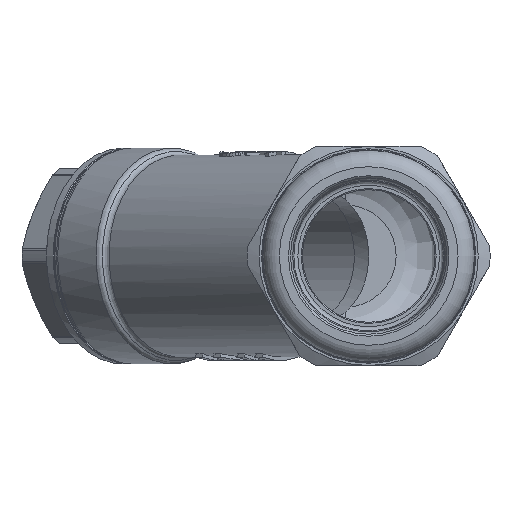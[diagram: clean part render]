
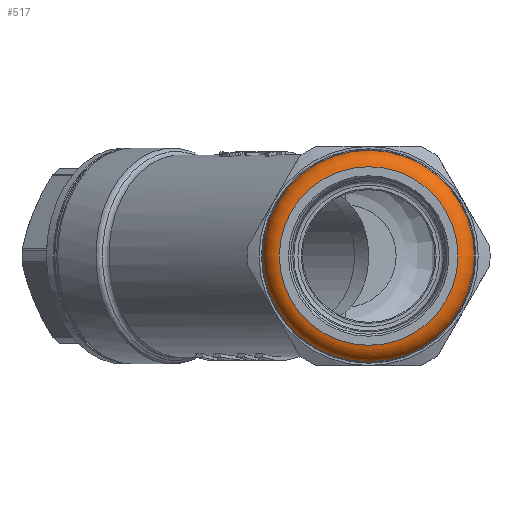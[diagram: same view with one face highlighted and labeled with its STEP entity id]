
A CAD part, left-side view. The second image highlights one B-rep face of the part: STEP entity #517.
In plain terms, the highlighted toroidal (fillet/blend) face has major radius 12.855 mm and minor radius 2.895 mm.
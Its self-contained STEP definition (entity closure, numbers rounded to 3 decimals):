
#483=CARTESIAN_POINT('',(-58.189,15.696,0.0));
#484=VERTEX_POINT('',#483);
#485=CARTESIAN_POINT('',(-58.189,0.0,0.0));
#486=DIRECTION('',(-1.0,0.0,0.0));
#487=DIRECTION('',(0.0,1.0,0.0));
#488=AXIS2_PLACEMENT_3D('',#485,#486,#487);
#489=CIRCLE('',#488,15.696);
#490=EDGE_CURVE('',#484,#484,#489,.T.);
#498=CARTESIAN_POINT('',(-57.632,0.0,0.0));
#499=DIRECTION('',(-1.0,0.0,0.0));
#500=DIRECTION('',(0.0,0.0,1.0));
#501=AXIS2_PLACEMENT_3D('',#498,#499,#500);
#502=TOROIDAL_SURFACE('',#501,12.855,2.895);
#503=CARTESIAN_POINT('',(-60.5,13.25,0.0));
#504=VERTEX_POINT('',#503);
#505=CARTESIAN_POINT('',(-60.5,0.0,0.0));
#506=DIRECTION('',(-1.0,0.0,0.0));
#507=DIRECTION('',(0.0,1.0,0.0));
#508=AXIS2_PLACEMENT_3D('',#505,#506,#507);
#509=CIRCLE('',#508,13.25);
#510=EDGE_CURVE('',#504,#504,#509,.T.);
#511=ORIENTED_EDGE('',*,*,#510,.F.);
#512=EDGE_LOOP('',(#511));
#513=FACE_OUTER_BOUND('',#512,.T.);
#514=ORIENTED_EDGE('',*,*,#490,.T.);
#515=EDGE_LOOP('',(#514));
#516=FACE_BOUND('',#515,.T.);
#517=ADVANCED_FACE('',(#513,#516),#502,.T.);
